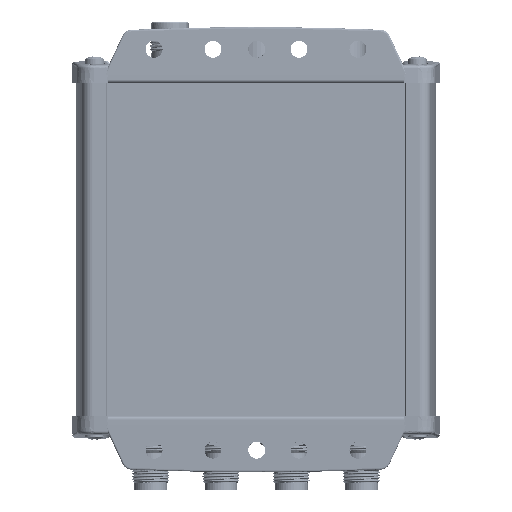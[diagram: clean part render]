
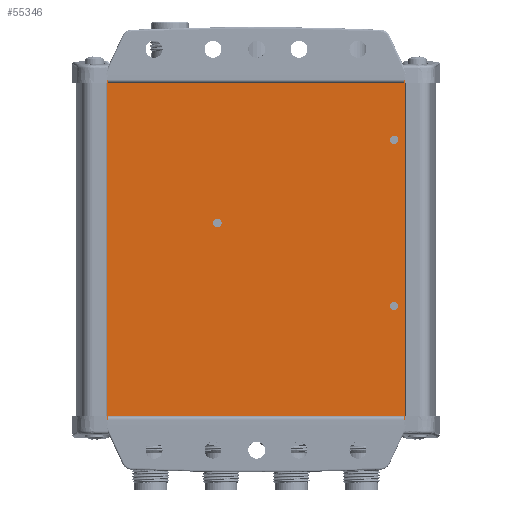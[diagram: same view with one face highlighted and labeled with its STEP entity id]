
A CAD part, front view. The second image highlights one B-rep face of the part: STEP entity #55346.
In plain terms, the highlighted planar face has unit normal (0, -1, 0).
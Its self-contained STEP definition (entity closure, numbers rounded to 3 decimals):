
#4304=LINE('',#92381,#8306);
#4375=LINE('',#92698,#8377);
#4468=LINE('',#92952,#8470);
#4469=LINE('',#92960,#8471);
#8306=VECTOR('',#77316,1000.);
#8377=VECTOR('',#77563,1000.);
#8470=VECTOR('',#77850,1000.);
#8471=VECTOR('',#77859,1000.);
#12812=ORIENTED_EDGE('',*,*,#29491,.F.);
#12813=ORIENTED_EDGE('',*,*,#29492,.F.);
#12814=ORIENTED_EDGE('',*,*,#29493,.F.);
#12815=ORIENTED_EDGE('',*,*,#29203,.T.);
#12816=ORIENTED_EDGE('',*,*,#29490,.F.);
#12817=ORIENTED_EDGE('',*,*,#29361,.F.);
#12818=ORIENTED_EDGE('',*,*,#29494,.T.);
#29203=EDGE_CURVE('',#37633,#37632,#4304,.T.);
#29361=EDGE_CURVE('',#37790,#37791,#4375,.T.);
#29490=EDGE_CURVE('',#37791,#37632,#4468,.T.);
#29491=EDGE_CURVE('',#37855,#37855,#43339,.T.);
#29492=EDGE_CURVE('',#37856,#37856,#43340,.T.);
#29493=EDGE_CURVE('',#37857,#37857,#43341,.T.);
#29494=EDGE_CURVE('',#37790,#37633,#4469,.T.);
#37632=VERTEX_POINT('',#92380);
#37633=VERTEX_POINT('',#92382);
#37790=VERTEX_POINT('',#92697);
#37791=VERTEX_POINT('',#92699);
#37855=VERTEX_POINT('',#92955);
#37856=VERTEX_POINT('',#92957);
#37857=VERTEX_POINT('',#92959);
#43339=CIRCLE('',#71917,1.25);
#43340=CIRCLE('',#71918,1.25);
#43341=CIRCLE('',#71919,1.25);
#45630=EDGE_LOOP('',(#12812));
#45631=EDGE_LOOP('',(#12813));
#45632=EDGE_LOOP('',(#12814));
#45633=EDGE_LOOP('',(#12815,#12816,#12817,#12818));
#49745=FACE_BOUND('',#45630,.T.);
#49746=FACE_BOUND('',#45631,.T.);
#49747=FACE_BOUND('',#45632,.T.);
#49748=FACE_BOUND('',#45633,.T.);
#53839=PLANE('',#71916);
#55346=ADVANCED_FACE('',(#49745,#49746,#49747,#49748),#53839,.F.);
#71916=AXIS2_PLACEMENT_3D('',#92953,#77851,#77852);
#71917=AXIS2_PLACEMENT_3D('',#92954,#77853,#77854);
#71918=AXIS2_PLACEMENT_3D('',#92956,#77855,#77856);
#71919=AXIS2_PLACEMENT_3D('',#92958,#77857,#77858);
#77316=DIRECTION('',(1.,0.,0.));
#77563=DIRECTION('',(1.,0.,0.));
#77850=DIRECTION('',(0.,0.,-1.));
#77851=DIRECTION('',(0.,1.,0.));
#77852=DIRECTION('',(-1.,0.,0.));
#77853=DIRECTION('',(0.,-1.,0.));
#77854=DIRECTION('',(-1.,0.,0.));
#77855=DIRECTION('',(0.,-1.,0.));
#77856=DIRECTION('',(-1.,0.,0.));
#77857=DIRECTION('',(0.,-1.,0.));
#77858=DIRECTION('',(-1.,0.,0.));
#77859=DIRECTION('',(0.,0.,-1.));
#92380=CARTESIAN_POINT('',(96.89,0.996,0.));
#92381=CARTESIAN_POINT('',(96.89,0.996,0.));
#92382=CARTESIAN_POINT('',(8.963,0.996,0.));
#92697=CARTESIAN_POINT('',(8.963,0.996,100.));
#92698=CARTESIAN_POINT('',(96.89,0.996,100.));
#92699=CARTESIAN_POINT('',(96.89,0.996,100.));
#92952=CARTESIAN_POINT('',(96.89,0.996,100.));
#92953=CARTESIAN_POINT('',(96.89,0.996,100.));
#92954=CARTESIAN_POINT('',(93.553,0.996,33.439));
#92955=CARTESIAN_POINT('',(92.303,0.996,33.439));
#92956=CARTESIAN_POINT('',(41.546,0.996,57.871));
#92957=CARTESIAN_POINT('',(40.296,0.996,57.871));
#92958=CARTESIAN_POINT('',(93.553,0.996,82.303));
#92959=CARTESIAN_POINT('',(92.303,0.996,82.303));
#92960=CARTESIAN_POINT('',(8.963,0.996,100.));
